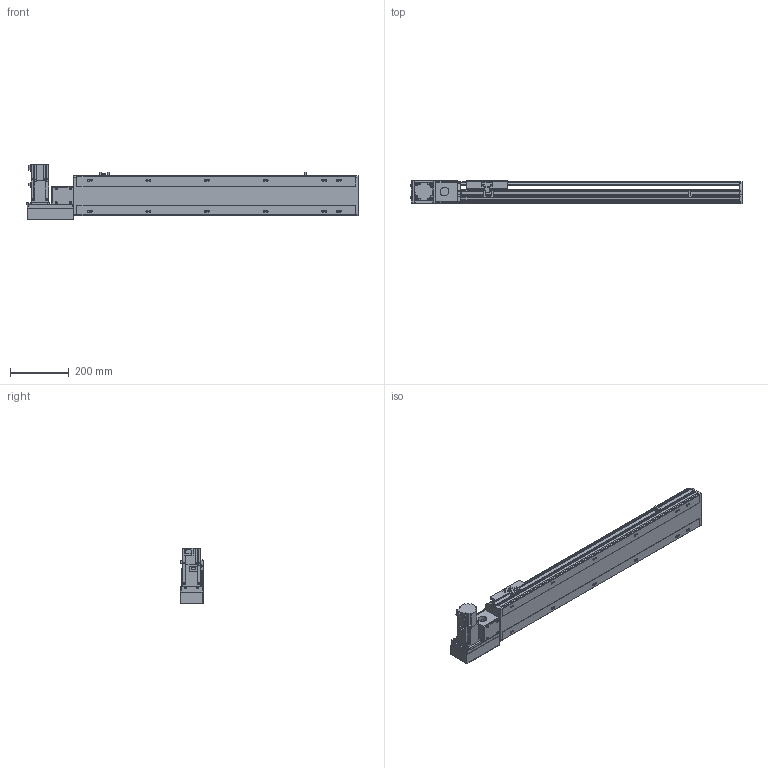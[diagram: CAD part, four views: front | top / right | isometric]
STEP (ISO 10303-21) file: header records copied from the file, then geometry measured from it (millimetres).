
FILE_DESCRIPTION(/* description */ ('STEP AP214'),/* implementation_level */ '2;1');
FILE_NAME(/* name */ 'PBS140-P40-S700-L-T40-C1-N(0)',/* time_stamp */ '2022-06-06T03:01:09+02:00',/* author */ ('License CC BY-ND 4.0'),/* organization */ ('CADENAS'),/* preprocessor_version */ 'ST-DEVELOPER v18.102',/* originating_system */ 'PARTsolutions',/* authorisation */ ' ');
FILE_SCHEMA (('AUTOMOTIVE_DESIGN {1 0 10303 214 3 1 1}'));
Length unit declared in the file: millimetre
Products named in the file (7): PBS140-P40-S700-L-T40-C1-N(0); PBS140_sensor; PBS140_plant; PBS140_sliser; T40-p1; PBS140T-L_motors; PBS140-S700()_body
Assembly tree (8 placements, depth 2):
  PBS140-P40-S700-L-T40-C1-N(0)
    PBS140_sensor  x3
    PBS140_plant
    PBS140_sliser
    T40-p1
    PBS140T-L_motors
    PBS140-S700()_body
Bounding box: 1133 x 80.5 x 189.7 mm (x, y, z)
Volume: 5253845.9 mm3; surface area: 932263.8 mm2
Topology: 8 solids, 8 shells, 1043 faces, 2756 edges, 1801 vertices
Faces by surface type: plane 680, cylinder 315, cone 38, sphere 8, torus 2
Full cylindrical faces by diameter (mm): 3.242 x4, 4 x2, 4.134 x4, 4.4 x8, 4.5 x2, 4.8 x4, 4.917 x20, 5.5 x7, 6 x2, 7 x14, 7.5 x8, 8 x12, 8.5 x4, 10.5 x12, 14 x1, 30 x2, 50 x2
Entity records: 29729 total; most frequent: CARTESIAN_POINT 5441, DIRECTION 5057, ORIENTED_EDGE 4792, EDGE_CURVE 2396, AXIS2_PLACEMENT_3D 1747, VERTEX_POINT 1653, LINE 1563, VECTOR 1563
